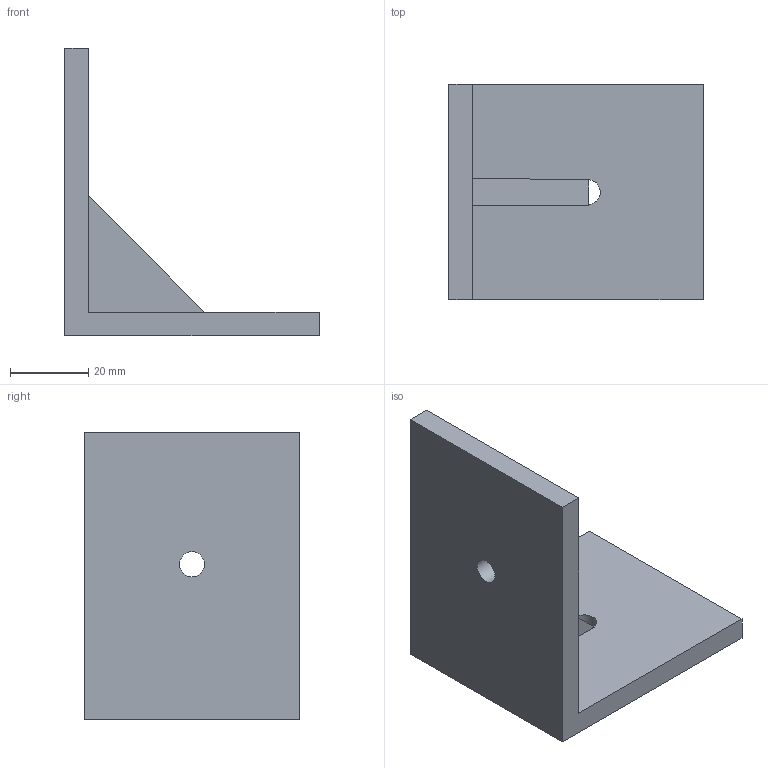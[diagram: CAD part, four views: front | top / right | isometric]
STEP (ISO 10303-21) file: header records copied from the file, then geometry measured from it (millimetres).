
FILE_DESCRIPTION(('Mechanical CAD reference from nasji.com'),'2;1');
FILE_NAME('NASJI.step','',(''),(''),'','NASJI distribution','');
FILE_SCHEMA(('AUTOMOTIVE_DESIGN { 1 0 10303 214 1 1 1 1 }'));
Length unit declared in the file: millimetre
Products named in the file (1): Open CASCADE STEP translator 7.8 139
Bounding box: 65 x 55 x 73.4 mm (x, y, z)
Volume: 46270.9 mm3; surface area: 17729.1 mm2
Topology: 1 solids, 1 shells, 14 faces, 37 edges, 24 vertices
Faces by surface type: plane 12, cylinder 2
Full cylindrical faces by diameter (mm): 6.4 x2
Entity records: 932 total; most frequent: CARTESIAN_POINT 166, DIRECTION 141, LINE 95, VECTOR 95, ORIENTED_EDGE 74, PCURVE 74, DEFINITIONAL_REPRESENTATION 74, EDGE_CURVE 37
